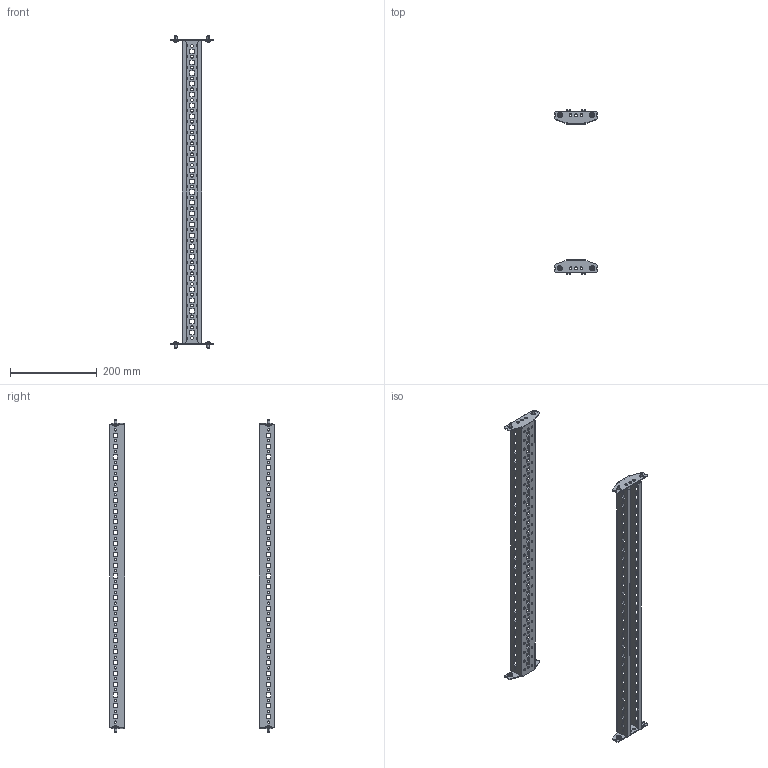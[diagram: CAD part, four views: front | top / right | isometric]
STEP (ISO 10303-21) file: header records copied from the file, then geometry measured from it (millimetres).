
FILE_DESCRIPTION (( 'STEP AP214' ), '1' );
FILE_NAME ('FO-00-VRC-080 Ðåéêà ìîíòàæíàÿ òèïà C 800 ìì (2 øò.óïàê.).STEP', '2025-10-06T12:50:00', ( '' ), ( '' ), 'SwSTEP 2.0', 'SolidWorks 2023', '' );
FILE_SCHEMA (( 'AUTOMOTIVE_DESIGN' ));
Length unit declared in the file: millimetre
Products named in the file (3): FO-00-VRC-080 Рейка монтажная типа C 800 мм (2 шт.упак.); Рейка монтажная типа C 800 мм; Винт М6х10 800 IEK
Assembly tree (6 placements, depth 2):
  FO-00-VRC-080 Рейка монтажная типа C 800 мм (2 шт.упак.)
    Рейка монтажная типа C 800 мм  x2
    Винт М6х10 800 IEK  x4
Bounding box: 101.5 x 380 x 722 mm (x, y, z)
Volume: 331670.5 mm3; surface area: 361764.2 mm2
Topology: 10 solids, 10 shells, 1636 faces, 4776 edges, 3168 vertices
Faces by surface type: plane 828, cylinder 760, torus 16, cone 16, sphere 16
Entity records: 26647 total; most frequent: CARTESIAN_POINT 4651, ORIENTED_EDGE 4500, DIRECTION 4428, EDGE_CURVE 2250, LINE 1546, VECTOR 1546, VERTEX_POINT 1496, AXIS2_PLACEMENT_3D 1441
